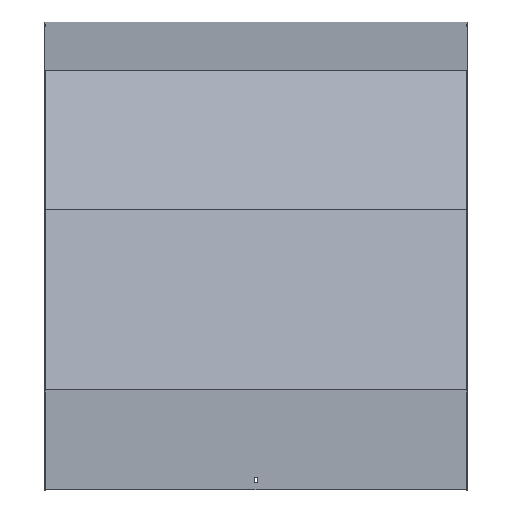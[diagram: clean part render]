
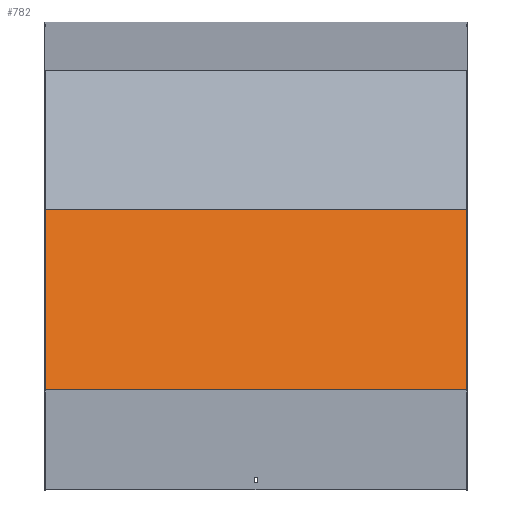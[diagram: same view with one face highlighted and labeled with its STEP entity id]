
A CAD part, top view. The second image highlights one B-rep face of the part: STEP entity #782.
In plain terms, the highlighted planar face has unit normal (0, 0.259, 0.966).
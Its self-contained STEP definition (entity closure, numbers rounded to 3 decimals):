
#32 = EDGE_CURVE ( 'NONE', #325, #966, #423, .T. ) ;
#39 = ORIENTED_EDGE ( 'NONE', *, *, #1108, .T. ) ;
#107 = VECTOR ( 'NONE', #780, 1000. ) ;
#126 = VECTOR ( 'NONE', #221, 1000. ) ;
#150 = CARTESIAN_POINT ( 'NONE',  ( 351.5, -298.106, 700.854 ) ) ;
#179 = CARTESIAN_POINT ( 'NONE',  ( -351.5, -593.325, 779.958 ) ) ;
#221 = DIRECTION ( 'NONE',  ( 0., -0.966, 0.259 ) ) ;
#249 = VERTEX_POINT ( 'NONE', #179 ) ;
#311 = PLANE ( 'NONE',  #637 ) ;
#314 = CARTESIAN_POINT ( 'NONE',  ( 351.5, -292.929, 699.467 ) ) ;
#325 = VERTEX_POINT ( 'NONE', #450 ) ;
#416 = VERTEX_POINT ( 'NONE', #1013 ) ;
#418 = LINE ( 'NONE', #686, #126 ) ;
#423 = LINE ( 'NONE', #150, #107 ) ;
#450 = CARTESIAN_POINT ( 'NONE',  ( 351.5, -292.929, 699.467 ) ) ;
#465 = CARTESIAN_POINT ( 'NONE',  ( 351.5, -593.325, 779.958 ) ) ;
#489 = LINE ( 'NONE', #314, #542 ) ;
#542 = VECTOR ( 'NONE', #759, 1000. ) ;
#593 = VECTOR ( 'NONE', #720, 1000. ) ;
#610 = LINE ( 'NONE', #465, #593 ) ;
#637 = AXIS2_PLACEMENT_3D ( 'NONE', #665, #885, #1068 ) ;
#665 = CARTESIAN_POINT ( 'NONE',  ( 351.5, -298.106, 700.854 ) ) ;
#686 = CARTESIAN_POINT ( 'NONE',  ( -351.5, -298.106, 700.854 ) ) ;
#720 = DIRECTION ( 'NONE',  ( -1., 0., 0. ) ) ;
#759 = DIRECTION ( 'NONE',  ( -1., 0., 0. ) ) ;
#770 = ORIENTED_EDGE ( 'NONE', *, *, #1088, .T. ) ;
#780 = DIRECTION ( 'NONE',  ( 0., -0.966, 0.259 ) ) ;
#782 = ADVANCED_FACE ( 'NONE', ( #1092 ), #311, .F. ) ;
#817 = EDGE_CURVE ( 'NONE', #966, #249, #610, .T. ) ;
#885 = DIRECTION ( 'NONE',  ( 0., -0.259, -0.966 ) ) ;
#890 = ORIENTED_EDGE ( 'NONE', *, *, #32, .F. ) ;
#950 = EDGE_LOOP ( 'NONE', ( #39, #963, #890, #770 ) ) ;
#963 = ORIENTED_EDGE ( 'NONE', *, *, #817, .F. ) ;
#966 = VERTEX_POINT ( 'NONE', #998 ) ;
#998 = CARTESIAN_POINT ( 'NONE',  ( 351.5, -593.325, 779.958 ) ) ;
#1013 = CARTESIAN_POINT ( 'NONE',  ( -351.5, -292.929, 699.467 ) ) ;
#1068 = DIRECTION ( 'NONE',  ( 0., 0.966, -0.259 ) ) ;
#1088 = EDGE_CURVE ( 'NONE', #325, #416, #489, .T. ) ;
#1092 = FACE_OUTER_BOUND ( 'NONE', #950, .T. ) ;
#1108 = EDGE_CURVE ( 'NONE', #416, #249, #418, .T. ) ;
